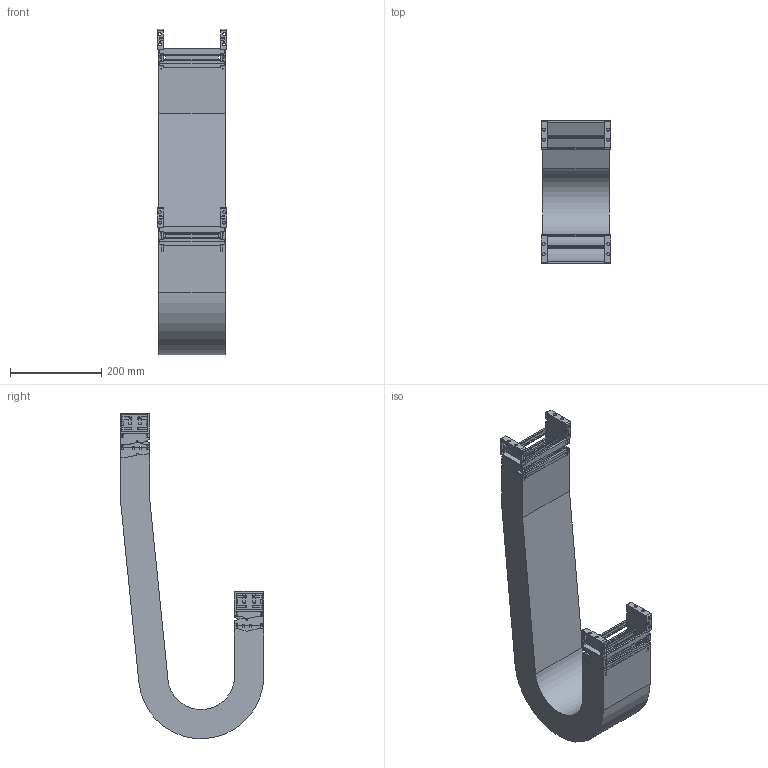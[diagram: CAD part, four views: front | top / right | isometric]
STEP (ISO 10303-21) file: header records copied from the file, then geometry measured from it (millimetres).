
FILE_DESCRIPTION((''),'2;1');
FILE_NAME('KST-50125-100_ASM','2017-12-08T',('KUNI004K'),(''),'PRO/ENGINEER BY PARAMETRIC TECHNOLOGY CORPORATION, 2015200','PRO/ENGINEER BY PARAMETRIC TECHNOLOGY CORPORATION, 2015200','');
FILE_SCHEMA(('AUTOMOTIVE_DESIGN { 1 0 10303 214 1 1 1 1 }'));
Length unit declared in the file: millimetre
Products named in the file (13): 50FBR; 50FBL; 40125C; KST50FB_W125_ASM; KST50100R; KST50100L; 40125H; KST50125-100_1_ASM; KST50125_R100_BODY; 50MBR; 50MBL; KST50MB_W125_ASM; KST-50125-100_ASM
Assembly tree (19 placements, depth 3):
  KST-50125-100_ASM
    KST50FB_W125_ASM
      50FBR
      50FBL
      40125C  x2
    KST50125-100_1_ASM  x2
      KST50100R
      KST50100L
      40125C
      40125H
    KST50125_R100_BODY
    KST50MB_W125_ASM
      50MBR
      50MBL
      40125C  x2
Bounding box: 153 x 314 x 712.38 mm (x, y, z)
Volume: 3062308.1 mm3; surface area: 1131059.4 mm2
Topology: 21 solids, 21 shells, 2936 faces, 8046 edges, 5180 vertices
Faces by surface type: plane 1542, cylinder 1018, bspline 312, torus 64
Entity records: 70333 total; most frequent: CARTESIAN_POINT 14180, ORIENTED_EDGE 7544, DIRECTION 6842, PRESENTATION_STYLE_ASSIGNMENT 5144, STYLED_ITEM 5144, CURVE_STYLE 3772, EDGE_CURVE 3772, VECTOR 2448
